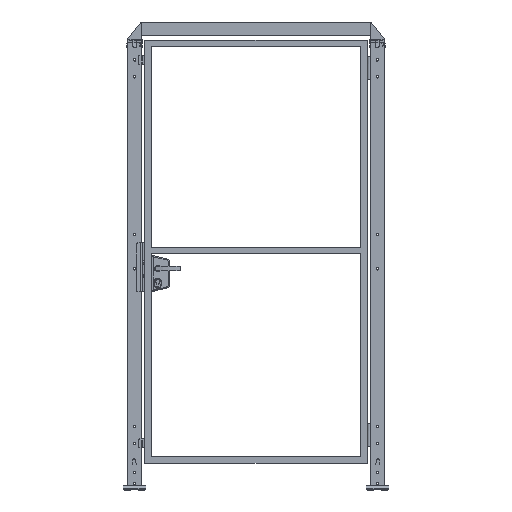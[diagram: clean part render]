
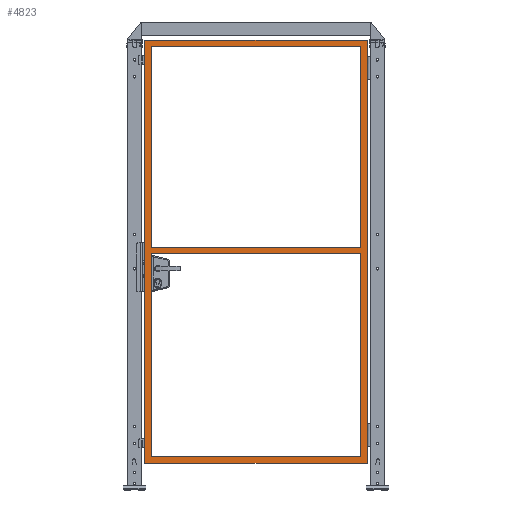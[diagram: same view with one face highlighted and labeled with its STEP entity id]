
A CAD part, top view. The second image highlights one B-rep face of the part: STEP entity #4823.
In plain terms, the highlighted planar face has unit normal (0, 0, 1).
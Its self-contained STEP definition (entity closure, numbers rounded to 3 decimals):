
#4823=ADVANCED_FACE('',(#9878,#9879,#9880),#9881,.F.);
#9878=FACE_BOUND('',#17852,.T.);
#9879=FACE_OUTER_BOUND('',#17853,.T.);
#9880=FACE_BOUND('',#17854,.T.);
#9881=PLANE('',#17855);
#17852=EDGE_LOOP('',(#32088,#32089,#32090,#32091));
#17853=EDGE_LOOP('',(#32092,#32093,#32094,#32095));
#17854=EDGE_LOOP('',(#32096,#32097,#32098,#32099));
#17855=AXIS2_PLACEMENT_3D('',#32100,#32101,#32102);
#32088=ORIENTED_EDGE('',*,*,#37969,.F.);
#32089=ORIENTED_EDGE('',*,*,#37975,.T.);
#32090=ORIENTED_EDGE('',*,*,#37997,.T.);
#32091=ORIENTED_EDGE('',*,*,#38002,.F.);
#32092=ORIENTED_EDGE('',*,*,#38013,.F.);
#32093=ORIENTED_EDGE('',*,*,#38007,.F.);
#32094=ORIENTED_EDGE('',*,*,#37977,.F.);
#32095=ORIENTED_EDGE('',*,*,#38011,.F.);
#32096=ORIENTED_EDGE('',*,*,#37999,.F.);
#32097=ORIENTED_EDGE('',*,*,#37994,.F.);
#32098=ORIENTED_EDGE('',*,*,#38005,.T.);
#32099=ORIENTED_EDGE('',*,*,#38014,.T.);
#32100=CARTESIAN_POINT('',(515.0,135.0,15.0));
#32101=DIRECTION('',(0.,0.0,-1.0));
#32102=DIRECTION('',(-1.0,0.0,0.));
#37969=EDGE_CURVE('',#46828,#46831,#46832,.T.);
#37975=EDGE_CURVE('',#46828,#46839,#46841,.T.);
#37977=EDGE_CURVE('',#46843,#46844,#46845,.T.);
#37994=EDGE_CURVE('',#46871,#46869,#46873,.T.);
#37997=EDGE_CURVE('',#46839,#46875,#46877,.T.);
#37999=EDGE_CURVE('',#46869,#46879,#46880,.T.);
#38002=EDGE_CURVE('',#46831,#46875,#46883,.T.);
#38005=EDGE_CURVE('',#46871,#46885,#46887,.T.);
#38007=EDGE_CURVE('',#46844,#46889,#46890,.T.);
#38011=EDGE_CURVE('',#46893,#46843,#46895,.T.);
#38013=EDGE_CURVE('',#46889,#46893,#46897,.T.);
#38014=EDGE_CURVE('',#46885,#46879,#46898,.T.);
#46828=VERTEX_POINT('',#60680);
#46831=VERTEX_POINT('',#60684);
#46832=LINE('',#60685,#60686);
#46839=VERTEX_POINT('',#60696);
#46841=LINE('',#60699,#60700);
#46843=VERTEX_POINT('',#60702);
#46844=VERTEX_POINT('',#60703);
#46845=LINE('',#60704,#60705);
#46869=VERTEX_POINT('',#60741);
#46871=VERTEX_POINT('',#60744);
#46873=LINE('',#60747,#60748);
#46875=VERTEX_POINT('',#60750);
#46877=LINE('',#60753,#60754);
#46879=VERTEX_POINT('',#60756);
#46880=LINE('',#60757,#60758);
#46883=LINE('',#60762,#60763);
#46885=VERTEX_POINT('',#60765);
#46887=LINE('',#60768,#60769);
#46889=VERTEX_POINT('',#60771);
#46890=LINE('',#60772,#60773);
#46893=VERTEX_POINT('',#60777);
#46895=LINE('',#60780,#60781);
#46897=LINE('',#60783,#60784);
#46898=LINE('',#60785,#60786);
#60680=CARTESIAN_POINT('',(985.0,1990.0,15.));
#60684=CARTESIAN_POINT('',(45.,1990.0,15.0));
#60685=CARTESIAN_POINT('',(515.0,1990.0,15.0));
#60686=VECTOR('',#67067,1.0);
#60696=CARTESIAN_POINT('',(985.0,1090.0,15.));
#60699=CARTESIAN_POINT('',(985.0,1070.0,15.));
#60700=VECTOR('',#67072,1.0);
#60702=CARTESIAN_POINT('',(15.0,120.0,15.0));
#60703=CARTESIAN_POINT('',(15.,2020.0,15.0));
#60704=CARTESIAN_POINT('',(15.0,135.0,15.0));
#60705=VECTOR('',#67073,1.0);
#60741=CARTESIAN_POINT('',(45.,1060.0,15.0));
#60744=CARTESIAN_POINT('',(985.0,1060.0,15.));
#60747=CARTESIAN_POINT('',(515.0,1060.0,15.0));
#60748=VECTOR('',#67088,1.0);
#60750=CARTESIAN_POINT('',(45.,1090.0,15.0));
#60753=CARTESIAN_POINT('',(515.0,1090.0,15.0));
#60754=VECTOR('',#67090,1.0);
#60756=CARTESIAN_POINT('',(45.0,150.0,15.0));
#60757=CARTESIAN_POINT('',(45.,1070.0,15.0));
#60758=VECTOR('',#67091,1.0);
#60762=CARTESIAN_POINT('',(45.,1070.0,15.0));
#60763=VECTOR('',#67093,1.0);
#60765=CARTESIAN_POINT('',(985.0,150.0,15.));
#60768=CARTESIAN_POINT('',(985.0,1070.0,15.));
#60769=VECTOR('',#67095,1.0);
#60771=CARTESIAN_POINT('',(1015.0,2020.0,15.));
#60772=CARTESIAN_POINT('',(30.,2020.0,15.0));
#60773=VECTOR('',#67096,1.0);
#60777=CARTESIAN_POINT('',(1015.0,120.0,15.));
#60780=CARTESIAN_POINT('',(515.0,120.0,15.0));
#60781=VECTOR('',#67099,1.0);
#60783=CARTESIAN_POINT('',(1015.0,1070.0,15.));
#60784=VECTOR('',#67100,1.0);
#60785=CARTESIAN_POINT('',(515.0,150.0,15.0));
#60786=VECTOR('',#67101,1.0);
#67067=DIRECTION('',(-1.0,0.0,0.));
#67072=DIRECTION('',(0.,-1.0,0.));
#67073=DIRECTION('',(0.0,1.0,0.0));
#67088=DIRECTION('',(-1.0,0.0,0.));
#67090=DIRECTION('',(-1.0,0.0,0.));
#67091=DIRECTION('',(0.,-1.0,0.));
#67093=DIRECTION('',(0.,-1.0,0.));
#67095=DIRECTION('',(0.,-1.0,0.));
#67096=DIRECTION('',(1.0,0.,0.));
#67099=DIRECTION('',(-1.0,0.0,0.));
#67100=DIRECTION('',(0.,-1.0,0.));
#67101=DIRECTION('',(-1.0,0.0,0.));
